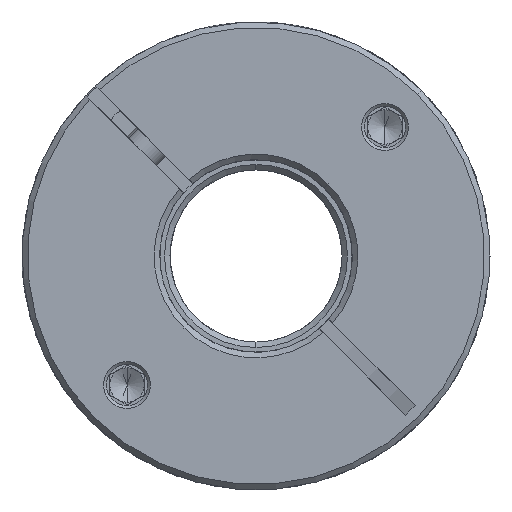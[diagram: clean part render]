
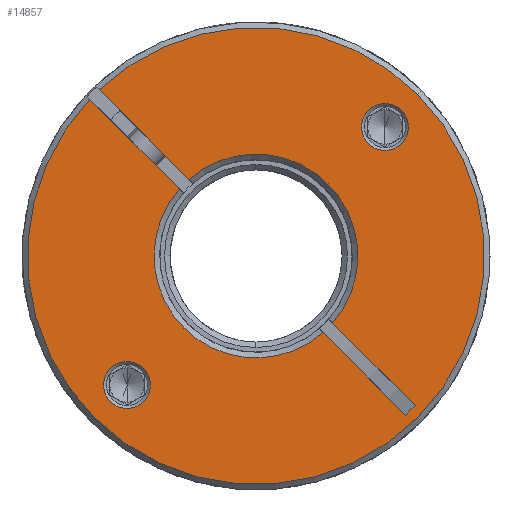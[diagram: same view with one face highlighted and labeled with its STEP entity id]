
A CAD part, front view. The second image highlights one B-rep face of the part: STEP entity #14857.
In plain terms, the highlighted planar face has unit normal (0, -1, 0).
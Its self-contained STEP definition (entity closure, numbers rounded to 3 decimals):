
#120 = ORIENTED_EDGE ( 'NONE', *, *, #13063, .T. ) ;
#128 = VERTEX_POINT ( 'NONE', #16630 ) ;
#150 = CARTESIAN_POINT ( 'NONE',  ( -2.735, -67.045, 68. ) ) ;
#304 = DIRECTION ( 'NONE',  ( 0.707, 0., 0.707 ) ) ;
#325 = CIRCLE ( 'NONE', #20619, 14.8 ) ;
#573 = EDGE_CURVE ( 'NONE', #21084, #6176, #325, .T. ) ;
#745 = CARTESIAN_POINT ( 'NONE',  ( -2.028, -67.045, 68.707 ) ) ;
#864 = CARTESIAN_POINT ( 'NONE',  ( 16.003, -67.045, 86.738 ) ) ;
#917 = CARTESIAN_POINT ( 'NONE',  ( -21.473, -67.045, 49.262 ) ) ;
#951 = VERTEX_POINT ( 'NONE', #16299 ) ;
#1010 = DIRECTION ( 'NONE',  ( 0.707, 0., 0.707 ) ) ;
#1110 = DIRECTION ( 'NONE',  ( 0.707, 0., 0.707 ) ) ;
#1147 = CIRCLE ( 'NONE', #4557, 14.8 ) ;
#1487 = CARTESIAN_POINT ( 'NONE',  ( 8.413, -67.045, 58.266 ) ) ;
#1674 = VERTEX_POINT ( 'NONE', #5494 ) ;
#2407 = FACE_BOUND ( 'NONE', #19309, .T. ) ;
#2469 = LINE ( 'NONE', #13153, #13812 ) ;
#2503 = CARTESIAN_POINT ( 'NONE',  ( -3.442, -67.045, 67.293 ) ) ;
#2517 = ORIENTED_EDGE ( 'NONE', *, *, #573, .T. ) ;
#3170 = CIRCLE ( 'NONE', #15820, 3.4 ) ;
#3263 = CIRCLE ( 'NONE', #15373, 3.4 ) ;
#3483 = DIRECTION ( 'NONE',  ( 0.707, 0., 0.707 ) ) ;
#3638 = DIRECTION ( 'NONE',  ( 0., 1., 0. ) ) ;
#3804 = PLANE ( 'NONE',  #16484 ) ;
#3840 = CARTESIAN_POINT ( 'NONE',  ( -3.442, -67.045, 67.293 ) ) ;
#4166 = LINE ( 'NONE', #15463, #7763 ) ;
#4212 = ORIENTED_EDGE ( 'NONE', *, *, #7942, .T. ) ;
#4557 = AXIS2_PLACEMENT_3D ( 'NONE', #150, #11720, #3483 ) ;
#4935 = DIRECTION ( 'NONE',  ( 0., 1., 0. ) ) ;
#5002 = ORIENTED_EDGE ( 'NONE', *, *, #15911, .T. ) ;
#5127 = CARTESIAN_POINT ( 'NONE',  ( 7.73, -67.045, 78.465 ) ) ;
#5494 = CARTESIAN_POINT ( 'NONE',  ( -13.883, -67.045, 77.734 ) ) ;
#5674 = DIRECTION ( 'NONE',  ( 0.707, 0., 0.707 ) ) ;
#5684 = CARTESIAN_POINT ( 'NONE',  ( -19.069, -67.045, 51.666 ) ) ;
#5913 = DIRECTION ( 'NONE',  ( 0., -1., 0. ) ) ;
#6034 = AXIS2_PLACEMENT_3D ( 'NONE', #13140, #4935, #6780 ) ;
#6176 = VERTEX_POINT ( 'NONE', #1487 ) ;
#6435 = EDGE_LOOP ( 'NONE', ( #20901, #8234, #20501, #4212, #13724, #7214, #2517, #15138, #16090, #8438, #120 ) ) ;
#6780 = DIRECTION ( 'NONE',  ( 0.707, 0., 0.707 ) ) ;
#7086 = DIRECTION ( 'NONE',  ( 0.707, 0., 0.707 ) ) ;
#7127 = CIRCLE ( 'NONE', #12371, 33.2 ) ;
#7214 = ORIENTED_EDGE ( 'NONE', *, *, #19402, .T. ) ;
#7267 = CIRCLE ( 'NONE', #7311, 33.2 ) ;
#7311 = AXIS2_PLACEMENT_3D ( 'NONE', #15879, #5913, #1110 ) ;
#7385 = CARTESIAN_POINT ( 'NONE',  ( -23.878, -67.045, 46.858 ) ) ;
#7627 = DIRECTION ( 'NONE',  ( 0., 1., 0. ) ) ;
#7691 = VERTEX_POINT ( 'NONE', #19996 ) ;
#7763 = VECTOR ( 'NONE', #10030, 1000. ) ;
#7942 = EDGE_CURVE ( 'NONE', #16096, #15945, #7127, .T. ) ;
#8047 = DIRECTION ( 'NONE',  ( 0.707, 0., 0.707 ) ) ;
#8231 = CARTESIAN_POINT ( 'NONE',  ( 13.599, -67.045, 84.334 ) ) ;
#8234 = ORIENTED_EDGE ( 'NONE', *, *, #20117, .T. ) ;
#8438 = ORIENTED_EDGE ( 'NONE', *, *, #20417, .F. ) ;
#8455 = DIRECTION ( 'NONE',  ( 0., -1., 0. ) ) ;
#8541 = CARTESIAN_POINT ( 'NONE',  ( -25.493, -67.045, 92.172 ) ) ;
#8597 = VECTOR ( 'NONE', #16111, 1000. ) ;
#8764 = DIRECTION ( 'NONE',  ( 0.707, 0., -0.707 ) ) ;
#9057 = LINE ( 'NONE', #3840, #14503 ) ;
#9071 = ORIENTED_EDGE ( 'NONE', *, *, #11538, .T. ) ;
#9219 = EDGE_CURVE ( 'NONE', #10131, #10589, #3263, .T. ) ;
#9357 = FACE_OUTER_BOUND ( 'NONE', #6435, .T. ) ;
#9530 = DIRECTION ( 'NONE',  ( 0., -1., 0. ) ) ;
#9693 = EDGE_CURVE ( 'NONE', #15945, #11634, #14039, .T. ) ;
#10030 = DIRECTION ( 'NONE',  ( 0.707, 0., -0.707 ) ) ;
#10131 = VERTEX_POINT ( 'NONE', #7385 ) ;
#10571 = CARTESIAN_POINT ( 'NONE',  ( -26.211, -67.045, 44.524 ) ) ;
#10589 = VERTEX_POINT ( 'NONE', #5684 ) ;
#10642 = FACE_BOUND ( 'NONE', #15994, .T. ) ;
#10864 = CIRCLE ( 'NONE', #19685, 3.4 ) ;
#11007 = CARTESIAN_POINT ( 'NONE',  ( -2.735, -67.045, 68. ) ) ;
#11303 = CARTESIAN_POINT ( 'NONE',  ( -21.473, -67.045, 49.262 ) ) ;
#11322 = VERTEX_POINT ( 'NONE', #8231 ) ;
#11538 = EDGE_CURVE ( 'NONE', #11322, #951, #13949, .T. ) ;
#11634 = VERTEX_POINT ( 'NONE', #12445 ) ;
#11720 = DIRECTION ( 'NONE',  ( 0., 1., 0. ) ) ;
#11966 = VECTOR ( 'NONE', #14101, 1000. ) ;
#12050 = CARTESIAN_POINT ( 'NONE',  ( -2.735, -67.045, 68. ) ) ;
#12371 = AXIS2_PLACEMENT_3D ( 'NONE', #17376, #15715, #15930 ) ;
#12436 = CARTESIAN_POINT ( 'NONE',  ( 20.741, -67.045, 91.476 ) ) ;
#12445 = CARTESIAN_POINT ( 'NONE',  ( -12.469, -67.045, 79.148 ) ) ;
#13009 = CARTESIAN_POINT ( 'NONE',  ( -2.735, -67.045, 68. ) ) ;
#13063 = EDGE_CURVE ( 'NONE', #16351, #1674, #15655, .T. ) ;
#13140 = CARTESIAN_POINT ( 'NONE',  ( 16.003, -67.045, 86.738 ) ) ;
#13153 = CARTESIAN_POINT ( 'NONE',  ( 18.988, -67.045, 44.862 ) ) ;
#13163 = EDGE_CURVE ( 'NONE', #7691, #17247, #2469, .T. ) ;
#13724 = ORIENTED_EDGE ( 'NONE', *, *, #9693, .T. ) ;
#13775 = VERTEX_POINT ( 'NONE', #10571 ) ;
#13812 = VECTOR ( 'NONE', #16690, 1000. ) ;
#13949 = CIRCLE ( 'NONE', #6034, 3.4 ) ;
#14039 = LINE ( 'NONE', #745, #8597 ) ;
#14101 = DIRECTION ( 'NONE',  ( 0.707, 0., -0.707 ) ) ;
#14503 = VECTOR ( 'NONE', #8764, 1000. ) ;
#14604 = DIRECTION ( 'NONE',  ( 0.707, 0., 0.707 ) ) ;
#14857 = ADVANCED_FACE ( 'NONE', ( #2407, #10642, #9357 ), #3804, .T. ) ;
#15138 = ORIENTED_EDGE ( 'NONE', *, *, #16208, .T. ) ;
#15373 = AXIS2_PLACEMENT_3D ( 'NONE', #917, #17439, #15776 ) ;
#15463 = CARTESIAN_POINT ( 'NONE',  ( -2.028, -67.045, 68.707 ) ) ;
#15630 = EDGE_CURVE ( 'NONE', #951, #11322, #10864, .T. ) ;
#15655 = CIRCLE ( 'NONE', #17273, 14.8 ) ;
#15715 = DIRECTION ( 'NONE',  ( 0., -1., 0. ) ) ;
#15776 = DIRECTION ( 'NONE',  ( 0.707, 0., 0.707 ) ) ;
#15801 = DIRECTION ( 'NONE',  ( 0., 1., 0. ) ) ;
#15820 = AXIS2_PLACEMENT_3D ( 'NONE', #11303, #19764, #8047 ) ;
#15879 = CARTESIAN_POINT ( 'NONE',  ( -2.735, -67.045, 68. ) ) ;
#15911 = EDGE_CURVE ( 'NONE', #10589, #10131, #3170, .T. ) ;
#15930 = DIRECTION ( 'NONE',  ( 0.707, 0., 0.707 ) ) ;
#15945 = VERTEX_POINT ( 'NONE', #8541 ) ;
#15994 = EDGE_LOOP ( 'NONE', ( #5002, #18303 ) ) ;
#16090 = ORIENTED_EDGE ( 'NONE', *, *, #13163, .T. ) ;
#16096 = VERTEX_POINT ( 'NONE', #12436 ) ;
#16111 = DIRECTION ( 'NONE',  ( 0.707, 0., -0.707 ) ) ;
#16208 = EDGE_CURVE ( 'NONE', #6176, #7691, #4166, .T. ) ;
#16299 = CARTESIAN_POINT ( 'NONE',  ( 18.407, -67.045, 89.142 ) ) ;
#16351 = VERTEX_POINT ( 'NONE', #17417 ) ;
#16385 = LINE ( 'NONE', #2503, #11966 ) ;
#16484 = AXIS2_PLACEMENT_3D ( 'NONE', #12050, #8455, #7086 ) ;
#16630 = CARTESIAN_POINT ( 'NONE',  ( -26.908, -67.045, 90.758 ) ) ;
#16690 = DIRECTION ( 'NONE',  ( -0.707, 0., -0.707 ) ) ;
#17084 = CARTESIAN_POINT ( 'NONE',  ( 18.988, -67.045, 44.862 ) ) ;
#17247 = VERTEX_POINT ( 'NONE', #17084 ) ;
#17273 = AXIS2_PLACEMENT_3D ( 'NONE', #11007, #7627, #1010 ) ;
#17376 = CARTESIAN_POINT ( 'NONE',  ( -2.735, -67.045, 68. ) ) ;
#17417 = CARTESIAN_POINT ( 'NONE',  ( 6.999, -67.045, 56.852 ) ) ;
#17439 = DIRECTION ( 'NONE',  ( 0., 1., 0. ) ) ;
#18303 = ORIENTED_EDGE ( 'NONE', *, *, #9219, .T. ) ;
#18719 = EDGE_CURVE ( 'NONE', #128, #1674, #16385, .T. ) ;
#18948 = EDGE_CURVE ( 'NONE', #13775, #16096, #18954, .T. ) ;
#18954 = CIRCLE ( 'NONE', #20846, 33.2 ) ;
#19309 = EDGE_LOOP ( 'NONE', ( #20278, #9071 ) ) ;
#19402 = EDGE_CURVE ( 'NONE', #11634, #21084, #1147, .T. ) ;
#19685 = AXIS2_PLACEMENT_3D ( 'NONE', #864, #15801, #5674 ) ;
#19764 = DIRECTION ( 'NONE',  ( 0., 1., 0. ) ) ;
#19996 = CARTESIAN_POINT ( 'NONE',  ( 20.402, -67.045, 46.277 ) ) ;
#20117 = EDGE_CURVE ( 'NONE', #128, #13775, #7267, .T. ) ;
#20142 = CARTESIAN_POINT ( 'NONE',  ( -2.735, -67.045, 68. ) ) ;
#20278 = ORIENTED_EDGE ( 'NONE', *, *, #15630, .T. ) ;
#20417 = EDGE_CURVE ( 'NONE', #16351, #17247, #9057, .T. ) ;
#20501 = ORIENTED_EDGE ( 'NONE', *, *, #18948, .T. ) ;
#20619 = AXIS2_PLACEMENT_3D ( 'NONE', #20142, #3638, #304 ) ;
#20846 = AXIS2_PLACEMENT_3D ( 'NONE', #13009, #9530, #14604 ) ;
#20901 = ORIENTED_EDGE ( 'NONE', *, *, #18719, .F. ) ;
#21084 = VERTEX_POINT ( 'NONE', #5127 ) ;
